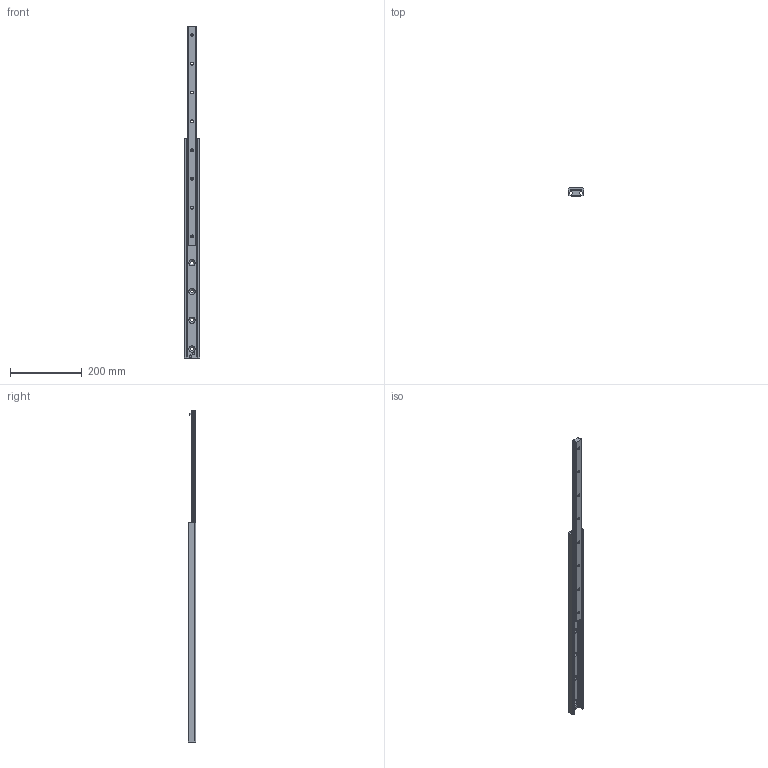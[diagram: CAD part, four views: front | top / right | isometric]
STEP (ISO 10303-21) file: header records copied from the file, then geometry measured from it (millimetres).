
FILE_DESCRIPTION(('STEP AP214'),'1');
FILE_NAME('rail_asn43-610_01.stp','2017-06-06T10:18:42',('TraceParts'),('TraceParts S.A.'),'Spatial InterOp 3D',' ',' ');
FILE_SCHEMA(('automotive_design'));
Length unit declared in the file: millimetre
Products named in the file (2): rail_asn43-610_01_1; rail_asn43-610_01_2
Bounding box: 43 x 22.01 x 923 mm (x, y, z)
Volume: 371376.8 mm3; surface area: 144552.5 mm2
Topology: 2 solids, 2 shells, 157 faces, 396 edges, 248 vertices
Faces by surface type: cylinder 63, cone 48, plane 46
Entity records: 4814 total; most frequent: DIRECTION 888, CARTESIAN_POINT 803, ORIENTED_EDGE 792, EDGE_CURVE 396, AXIS2_PLACEMENT_3D 333, VERTEX_POINT 248, LINE 222, VECTOR 222
